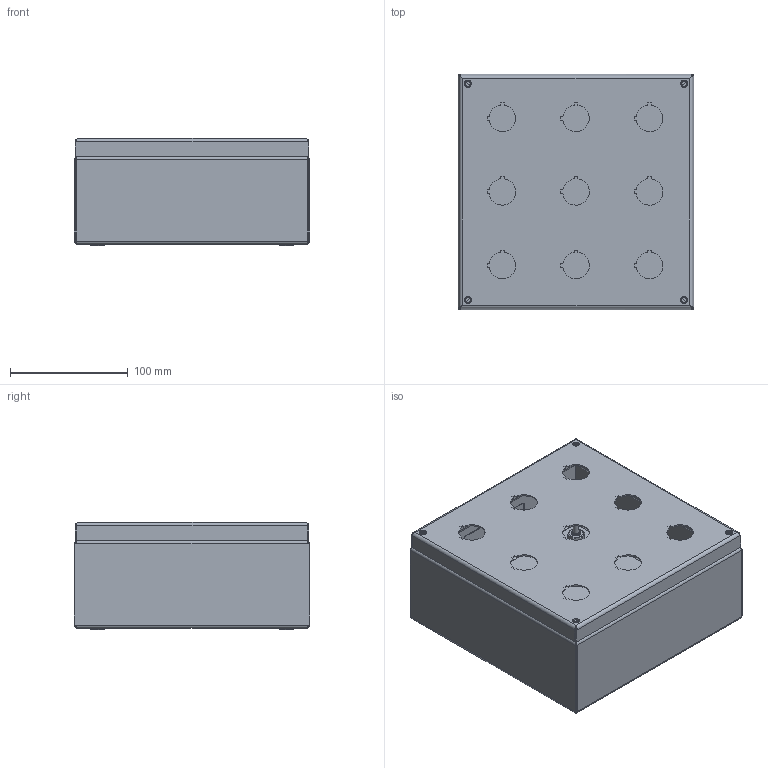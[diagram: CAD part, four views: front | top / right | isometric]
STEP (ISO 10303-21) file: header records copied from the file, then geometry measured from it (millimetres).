
FILE_DESCRIPTION(/* description */ ('www.inoxveneta.it','CAx-IF Rec.Pracs.---Representation and Presentation of Product Manufacturing Information (PMI)---4.0---2014-10-13','CAx-IF Rec.Pracs.---3D Tessellated Geometry---0.4---2014-09-14','2;1'),/* implementation_level */ '2;1');
FILE_NAME(/* name */ 'SCATOLA SCA02002009.9',/* time_stamp */ '2023-02-01T11:09:10+01:00',/* author */ ('Inoxveneta S.p.A '),/* organization */ ('Unknown'),/* preprocessor_version */ 'ST-DEVELOPER v18.102',/* originating_system */ 'Solid Edge',/* authorisation */ 'Unknown');
FILE_SCHEMA (('AP242_MANAGED_MODEL_BASED_3D_ENGINEERING_MIM_LF { 1 0 10303 442 1 1 4 }'));
Length unit declared in the file: millimetre
Products named in the file (12): SCA02002009.9; S000X000.17; S0000000.14; AE00511.01; S0000000.78; AE00891.05; S0000000.02; C0000000.08; S000X000.92; S0000000.88; AE00407.01; S0000000.04
Assembly tree (23 placements, depth 3):
  SCA02002009.9
    S000X000.17
      S0000000.14
      AE00511.01  x4
    S0000000.78  x4
    AE00891.05  x4
    S0000000.02  x4
    C0000000.08
    S000X000.92
      S0000000.88
      AE00407.01
    S0000000.04
Bounding box: 200 x 200 x 91 mm (x, y, z)
Volume: 227931.5 mm3; surface area: 357260.6 mm2
Topology: 21 solids, 21 shells, 650 faces, 1571 edges, 975 vertices
Faces by surface type: plane 392, cylinder 144, cone 69, bspline 24, torus 21
Full cylindrical faces by diameter (mm): 4.2 x8, 5 x5, 6 x4, 6.5 x1, 6.647 x4, 7 x4, 8 x4, 8.25 x4, 11 x4, 12 x4
Entity records: 13511 total; most frequent: CARTESIAN_POINT 2590, DIRECTION 2084, ORIENTED_EDGE 2024, EDGE_CURVE 1012, LINE 708, VECTOR 708, AXIS2_PLACEMENT_3D 688, VERTEX_POINT 642
